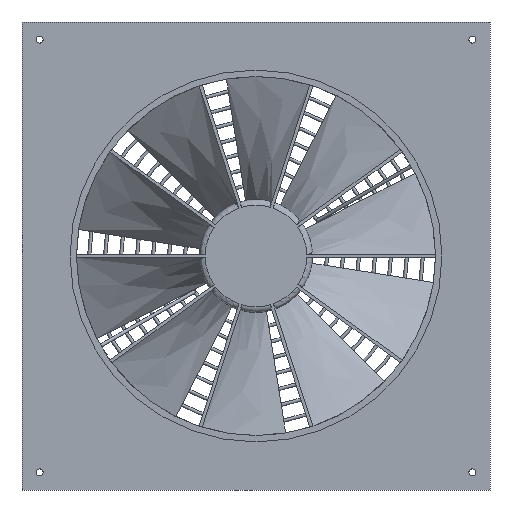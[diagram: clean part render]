
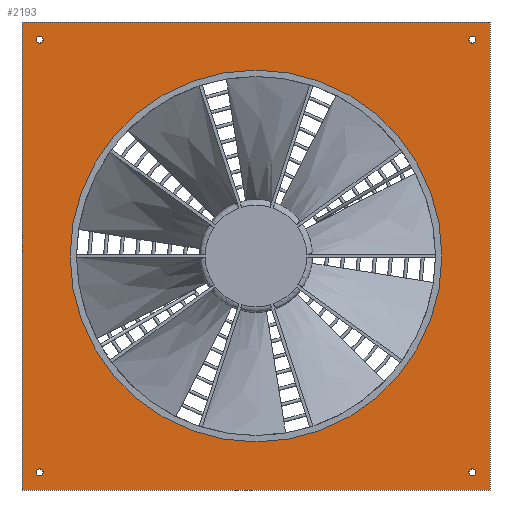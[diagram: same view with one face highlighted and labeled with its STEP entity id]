
A CAD part, front view. The second image highlights one B-rep face of the part: STEP entity #2193.
In plain terms, the highlighted planar face has unit normal (0, -1, 0).
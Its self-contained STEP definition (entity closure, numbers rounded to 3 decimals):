
#58=FACE_BOUND('',#626,.T.);
#59=FACE_BOUND('',#627,.T.);
#60=FACE_BOUND('',#628,.T.);
#61=FACE_BOUND('',#629,.T.);
#62=FACE_BOUND('',#630,.T.);
#84=PLANE('',#2419);
#248=LINE('',#3894,#338);
#250=LINE('',#3901,#340);
#252=LINE('',#3907,#342);
#253=LINE('',#3909,#343);
#338=VECTOR('',#2722,10.);
#340=VECTOR('',#2730,10.);
#342=VECTOR('',#2736,10.);
#343=VECTOR('',#2739,10.);
#505=FACE_OUTER_BOUND('',#625,.T.);
#625=EDGE_LOOP('',(#1740,#1741,#1742,#1743));
#626=EDGE_LOOP('',(#1744,#1745));
#627=EDGE_LOOP('',(#1746,#1747));
#628=EDGE_LOOP('',(#1748,#1749));
#629=EDGE_LOOP('',(#1750,#1751));
#630=EDGE_LOOP('',(#1752));
#762=CIRCLE('',#2402,5.5);
#763=CIRCLE('',#2403,5.5);
#764=CIRCLE('',#2405,5.5);
#765=CIRCLE('',#2406,5.5);
#766=CIRCLE('',#2408,5.5);
#767=CIRCLE('',#2409,5.5);
#768=CIRCLE('',#2411,5.5);
#769=CIRCLE('',#2412,5.5);
#771=CIRCLE('',#2415,290.);
#917=VERTEX_POINT('',#3891);
#918=VERTEX_POINT('',#3893);
#920=VERTEX_POINT('',#3899);
#922=VERTEX_POINT('',#3905);
#927=VERTEX_POINT('',#3921);
#928=VERTEX_POINT('',#3922);
#929=VERTEX_POINT('',#3927);
#930=VERTEX_POINT('',#3928);
#931=VERTEX_POINT('',#3933);
#932=VERTEX_POINT('',#3934);
#933=VERTEX_POINT('',#3939);
#934=VERTEX_POINT('',#3940);
#936=VERTEX_POINT('',#3947);
#1205=EDGE_CURVE('',#918,#917,#248,.T.);
#1209=EDGE_CURVE('',#917,#920,#250,.T.);
#1212=EDGE_CURVE('',#920,#922,#252,.T.);
#1213=EDGE_CURVE('',#922,#918,#253,.T.);
#1219=EDGE_CURVE('',#927,#928,#762,.T.);
#1220=EDGE_CURVE('',#928,#927,#763,.T.);
#1222=EDGE_CURVE('',#929,#930,#764,.T.);
#1223=EDGE_CURVE('',#930,#929,#765,.T.);
#1225=EDGE_CURVE('',#931,#932,#766,.T.);
#1226=EDGE_CURVE('',#932,#931,#767,.T.);
#1228=EDGE_CURVE('',#933,#934,#768,.T.);
#1229=EDGE_CURVE('',#934,#933,#769,.T.);
#1233=EDGE_CURVE('',#936,#936,#771,.T.);
#1740=ORIENTED_EDGE('',*,*,#1205,.T.);
#1741=ORIENTED_EDGE('',*,*,#1209,.T.);
#1742=ORIENTED_EDGE('',*,*,#1212,.T.);
#1743=ORIENTED_EDGE('',*,*,#1213,.T.);
#1744=ORIENTED_EDGE('',*,*,#1219,.T.);
#1745=ORIENTED_EDGE('',*,*,#1220,.T.);
#1746=ORIENTED_EDGE('',*,*,#1222,.T.);
#1747=ORIENTED_EDGE('',*,*,#1223,.T.);
#1748=ORIENTED_EDGE('',*,*,#1225,.T.);
#1749=ORIENTED_EDGE('',*,*,#1226,.T.);
#1750=ORIENTED_EDGE('',*,*,#1228,.T.);
#1751=ORIENTED_EDGE('',*,*,#1229,.T.);
#1752=ORIENTED_EDGE('',*,*,#1233,.T.);
#2193=ADVANCED_FACE('',(#505,#58,#59,#60,#61,#62),#84,.F.);
#2402=AXIS2_PLACEMENT_3D('',#3923,#2753,#2754);
#2403=AXIS2_PLACEMENT_3D('',#3924,#2755,#2756);
#2405=AXIS2_PLACEMENT_3D('',#3929,#2760,#2761);
#2406=AXIS2_PLACEMENT_3D('',#3930,#2762,#2763);
#2408=AXIS2_PLACEMENT_3D('',#3935,#2767,#2768);
#2409=AXIS2_PLACEMENT_3D('',#3936,#2769,#2770);
#2411=AXIS2_PLACEMENT_3D('',#3941,#2774,#2775);
#2412=AXIS2_PLACEMENT_3D('',#3942,#2776,#2777);
#2415=AXIS2_PLACEMENT_3D('',#3949,#2784,#2785);
#2419=AXIS2_PLACEMENT_3D('',#3953,#2792,#2793);
#2722=DIRECTION('',(1.,0.,0.));
#2730=DIRECTION('',(0.,0.,1.));
#2736=DIRECTION('',(-1.,0.,0.));
#2739=DIRECTION('',(0.,0.,-1.));
#2753=DIRECTION('center_axis',(0.,1.,0.));
#2754=DIRECTION('ref_axis',(1.,0.,0.));
#2755=DIRECTION('center_axis',(0.,1.,0.));
#2756=DIRECTION('ref_axis',(1.,0.,0.));
#2760=DIRECTION('center_axis',(0.,1.,0.));
#2761=DIRECTION('ref_axis',(1.,0.,0.));
#2762=DIRECTION('center_axis',(0.,1.,0.));
#2763=DIRECTION('ref_axis',(1.,0.,0.));
#2767=DIRECTION('center_axis',(0.,1.,0.));
#2768=DIRECTION('ref_axis',(1.,0.,0.));
#2769=DIRECTION('center_axis',(0.,1.,0.));
#2770=DIRECTION('ref_axis',(1.,0.,0.));
#2774=DIRECTION('center_axis',(0.,1.,0.));
#2775=DIRECTION('ref_axis',(1.,0.,0.));
#2776=DIRECTION('center_axis',(0.,1.,0.));
#2777=DIRECTION('ref_axis',(1.,0.,0.));
#2784=DIRECTION('center_axis',(0.,1.,0.));
#2785=DIRECTION('ref_axis',(-1.,0.,0.));
#2792=DIRECTION('center_axis',(0.,1.,0.));
#2793=DIRECTION('ref_axis',(0.,0.,1.));
#3891=CARTESIAN_POINT('',(365.,0.,-365.));
#3893=CARTESIAN_POINT('',(-365.,0.,-365.));
#3894=CARTESIAN_POINT('',(-365.,0.,-365.));
#3899=CARTESIAN_POINT('',(365.,0.,365.));
#3901=CARTESIAN_POINT('',(365.,0.,-365.));
#3905=CARTESIAN_POINT('',(-365.,0.,365.));
#3907=CARTESIAN_POINT('',(365.,0.,365.));
#3909=CARTESIAN_POINT('',(-365.,0.,365.));
#3921=CARTESIAN_POINT('',(-332.,0.,-337.5));
#3922=CARTESIAN_POINT('',(-343.,0.,-337.5));
#3923=CARTESIAN_POINT('Origin',(-337.5,0.,-337.5));
#3924=CARTESIAN_POINT('Origin',(-337.5,0.,-337.5));
#3927=CARTESIAN_POINT('',(343.,0.,337.5));
#3928=CARTESIAN_POINT('',(332.,0.,337.5));
#3929=CARTESIAN_POINT('Origin',(337.5,0.,337.5));
#3930=CARTESIAN_POINT('Origin',(337.5,0.,337.5));
#3933=CARTESIAN_POINT('',(343.,0.,-337.5));
#3934=CARTESIAN_POINT('',(332.,0.,-337.5));
#3935=CARTESIAN_POINT('Origin',(337.5,0.,-337.5));
#3936=CARTESIAN_POINT('Origin',(337.5,0.,-337.5));
#3939=CARTESIAN_POINT('',(-332.,0.,337.5));
#3940=CARTESIAN_POINT('',(-343.,0.,337.5));
#3941=CARTESIAN_POINT('Origin',(-337.5,0.,337.5));
#3942=CARTESIAN_POINT('Origin',(-337.5,0.,337.5));
#3947=CARTESIAN_POINT('',(290.,0.,0.));
#3949=CARTESIAN_POINT('Origin',(0.,0.,0.));
#3953=CARTESIAN_POINT('Origin',(0.,0.,0.));
